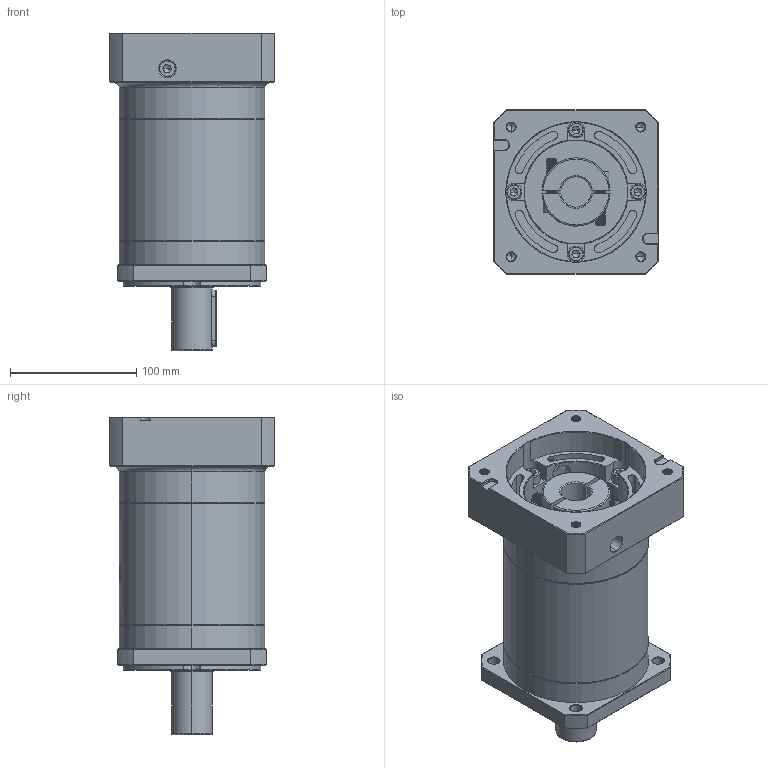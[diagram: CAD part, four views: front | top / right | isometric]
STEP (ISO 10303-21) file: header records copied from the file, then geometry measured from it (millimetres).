
FILE_DESCRIPTION (( 'STEP AP214' ), '1' );
FILE_NAME ('ZF120A-D32-L3-P2-24-110-145-M8.step', '2023-08-27T04:48:10', ( '' ), ( '' ), 'SwSTEP 2.0', 'SolidWorks 2016', '' );
FILE_SCHEMA (( 'AUTOMOTIVE_DESIGN' ));
Length unit declared in the file: millimetre
Products named in the file (1): ZF120A-D32-L3-P2-24-110-145-M8
Bounding box: 130 x 130 x 251 mm (x, y, z)
Volume: 2061945.1 mm3; surface area: 203689.7 mm2
Topology: 6 solids, 6 shells, 2278 faces, 6077 edges, 3898 vertices
Faces by surface type: plane 1060, cylinder 449, bspline 421, cone 328, torus 20
Entity records: 126580 total; most frequent: CARTESIAN_POINT 50214, ORIENTED_EDGE 12094, DIRECTION 8811, EDGE_CURVE 6047, VERTEX_POINT 3898, LINE 3173, VECTOR 3173, AXIS2_PLACEMENT_3D 2819
